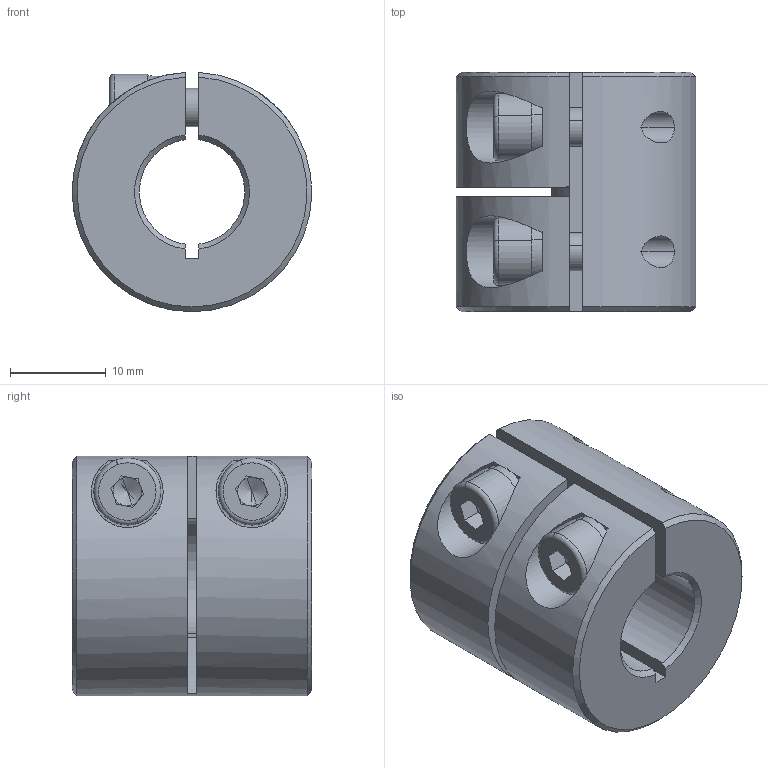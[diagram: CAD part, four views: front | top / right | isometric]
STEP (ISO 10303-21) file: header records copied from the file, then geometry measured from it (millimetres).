
FILE_DESCRIPTION (( 'STEP AP203' ), '1' );
FILE_NAME ('LL-B-D25L25-11-12.STEP', '2021-11-05T06:41:34', ( '' ), ( '' ), 'SwSTEP 2.0', 'SolidWorks 2018', '' );
FILE_SCHEMA (( 'CONFIG_CONTROL_DESIGN' ));
Length unit declared in the file: millimetre
Products named in the file (1): LL-B-D25L25-11-12
Bounding box: 24.99 x 25 x 24.98 mm (x, y, z)
Volume: 9029.1 mm3; surface area: 4895.4 mm2
Topology: 1 solids, 1 shells, 104 faces, 270 edges, 170 vertices
Faces by surface type: plane 52, cylinder 37, cone 11, torus 4
Entity records: 3471 total; most frequent: CARTESIAN_POINT 815, DIRECTION 560, ORIENTED_EDGE 532, EDGE_CURVE 266, AXIS2_PLACEMENT_3D 215, VERTEX_POINT 170, LINE 130, VECTOR 130
